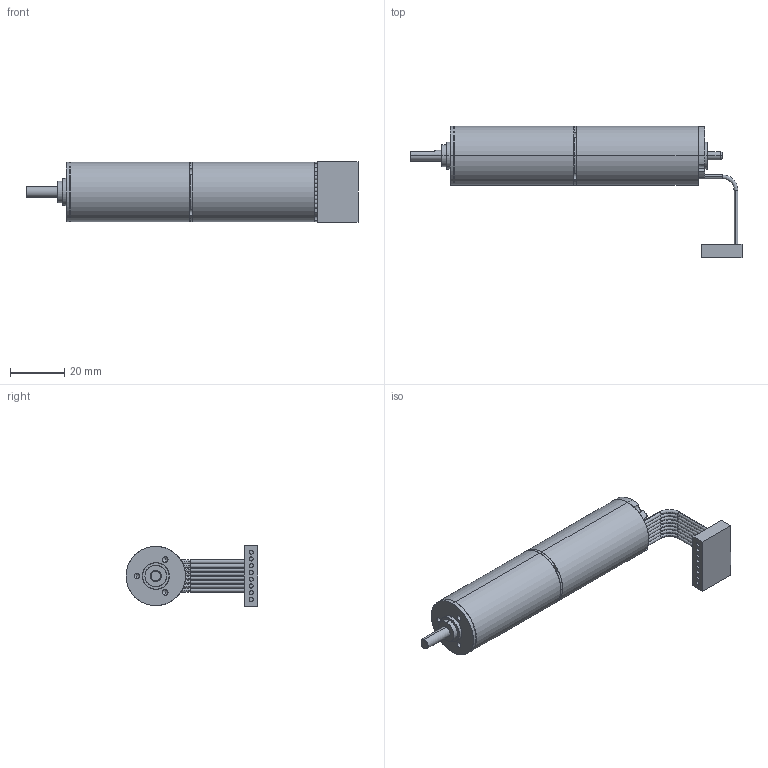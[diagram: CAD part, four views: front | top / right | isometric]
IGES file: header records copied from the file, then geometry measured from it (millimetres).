
Start section: SolidWorks IGES file using analytic representation for surfaces
Global section: file name: \\Uranus\R&D\plans\CATALOGUES\Topstock_Piece_IGES\ECMax22L_+_GP022C 4etages.IGS; native system: SolidWorks 2008; preprocessor: SolidWorks 2008; author: JUL; date: 090326.102654; units: millimetre
Bounding box: 122.9 x 48.8 x 22.4 mm (x, y, z)
Surface area: 11677.2 mm2 (no closed solid volume)
Topology: 0 solids, 0 shells, 206 faces, 2527 edges, 2507 vertices
Faces by surface type: revolution 157, bspline 49
